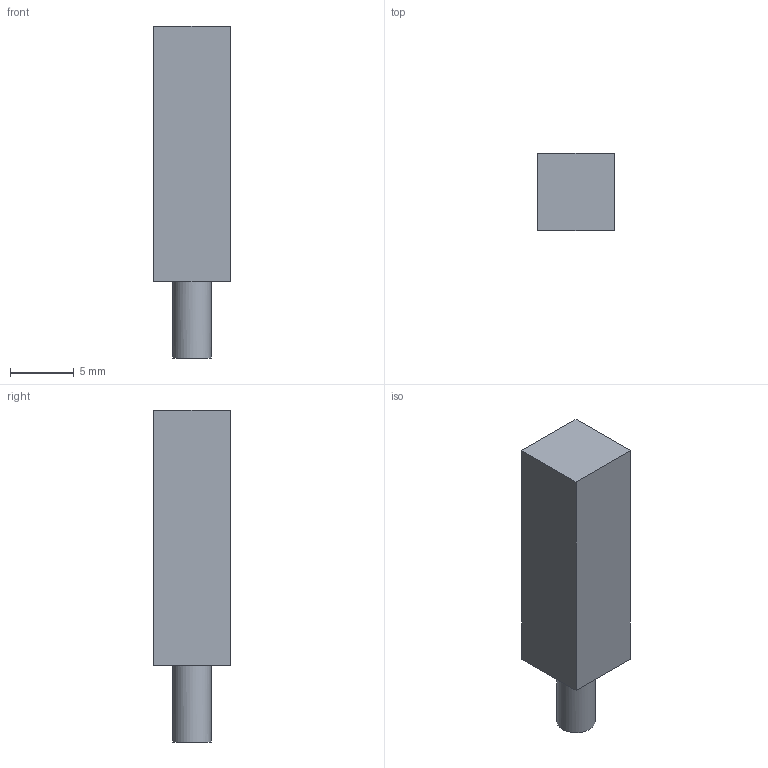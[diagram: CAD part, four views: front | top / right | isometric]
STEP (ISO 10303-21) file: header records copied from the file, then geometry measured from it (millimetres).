
FILE_DESCRIPTION( ( 'Unknown' ), '1' );
FILE_NAME( '//baumerholding.org/frauenfeld/bereich/BECH/Services/me_CAD/Solid Edge/Models/Dokumentationen/Induktiv/IxFx 06/Vereinfachte Modelle/Neutralformate/IFFM 06xxxA3_O1L.stp', 'Unknown', ( 'Unknown' ), ( 'Unknown' ), 'XStep 1.0', 'Unknown', ' ' );
FILE_SCHEMA( ( 'CONFIG_CONTROL_DESIGN' ) );
Length unit declared in the file: millimetre
Products named in the file (1): 145090
Bounding box: 6 x 6 x 26 mm (x, y, z)
Volume: 761.6 mm3; surface area: 615.8 mm2
Topology: 1 solids, 1 shells, 15 faces, 28 edges, 19 vertices
Faces by surface type: plane 10, cylinder 3, torus 1, cone 1
Full cylindrical faces by diameter (mm): 3 x1, 3.9 x1, 4 x1
Entity records: 380 total; most frequent: DIRECTION 62, CARTESIAN_POINT 54, ORIENTED_EDGE 42, AXIS2_PLACEMENT_3D 25, EDGE_LOOP 24, EDGE_CURVE 21, FACE_OUTER_BOUND 19, VERTEX_POINT 17
